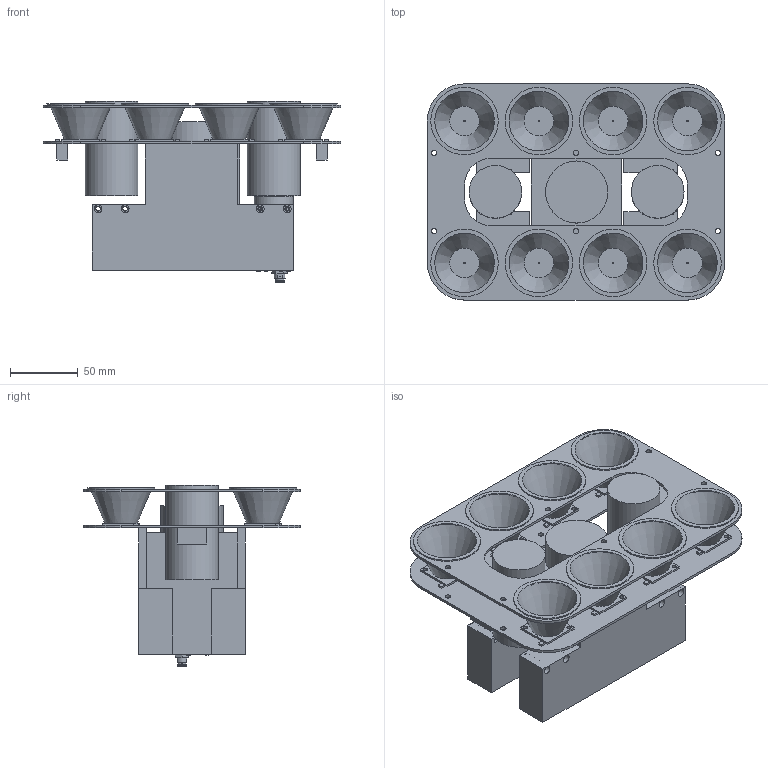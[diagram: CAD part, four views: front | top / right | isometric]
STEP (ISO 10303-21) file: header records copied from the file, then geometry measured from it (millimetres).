
FILE_DESCRIPTION((''),'2;1');
FILE_NAME('Z:\work\KnowCE\CAD 2025_04_23\Assembly.stp','2025-04-24T17:36:44',('Francesco Roman�'),(''),'Autodesk Inventor 2012','Autodesk Inventor 2012','');
FILE_SCHEMA(('AUTOMOTIVE_DESIGN { 1 0 10303 214 1 1 1 1 }'));
Length unit declared in the file: millimetre
Products named in the file (10): Assembly; 11702241_VCXG-241C; Fuji CF12ZA; Fuji CF50ZA; Supporto LENTI; Flir A50; Lente; PCB LED; Phoenix 1755752; Supporto camere
Assembly tree (18 placements, depth 2):
  Assembly
    11702241_VCXG-241C
    Fuji CF12ZA
    Fuji CF50ZA
    Supporto LENTI
    Flir A50
    Lente  x8
    PCB LED
    Phoenix 1755752  x2
    Supporto camere  x2
Bounding box: 220 x 160 x 134.35 mm (x, y, z)
Volume: 1001909.4 mm3; surface area: 292376 mm2
Topology: 20 solids, 25 shells, 2390 faces, 6185 edges, 4127 vertices
Faces by surface type: plane 1470, cylinder 733, cone 118, torus 27, bspline 24, sphere 18
Full cylindrical faces by diameter (mm): 0.217 x1, 0.6 x242, 1 x8, 1.075 x2, 1.1 x2, 1.4 x4, 1.567 x2, 1.6 x2, 1.9 x4, 2.459 x10, 3 x4, 3.2 x16, 3.242 x2, 3.5 x8, 4 x14, 5.75 x8, 6.5 x1, 6.9 x1, 8.4 x1, 9 x1, 9.4 x1, 25.7 x1, 26 x1, 28.6 x1, 28.7 x1, 39 x2, 45 x8, 46 x1, 50 x8
Entity records: 70272 total; most frequent: CARTESIAN_POINT 13387, DIRECTION 11266, ORIENTED_EDGE 10580, EDGE_CURVE 5290, AXIS2_PLACEMENT_3D 3994, VERTEX_POINT 3691, VECTOR 3278, LINE 3278
